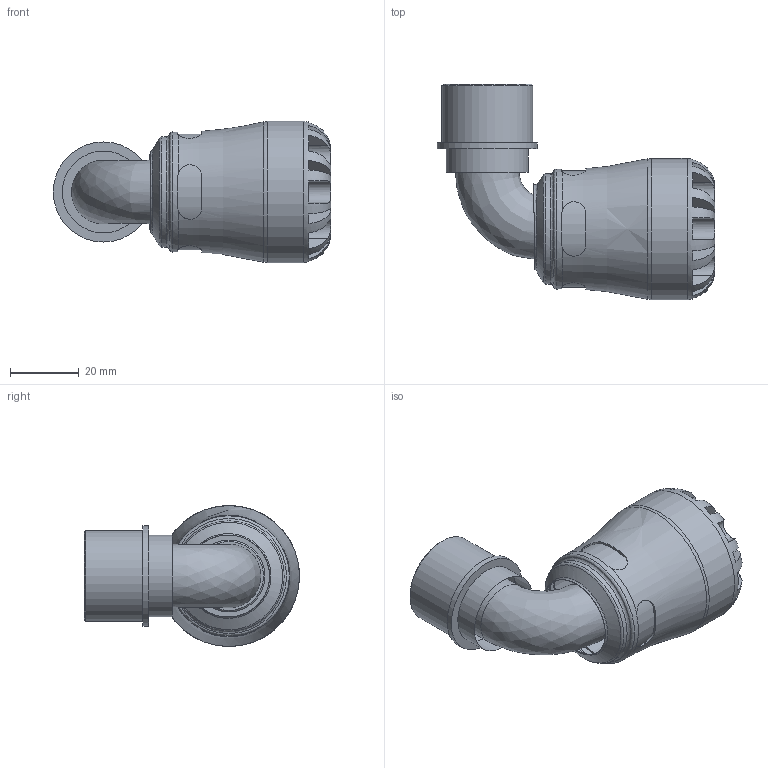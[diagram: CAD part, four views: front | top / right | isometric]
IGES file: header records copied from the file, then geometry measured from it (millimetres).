
Global section: file name: 108500020007_198500020007.ipt; native system: Autodesk Inventor 2015; preprocessor: unknown; author: KIM; date: 20170122.114945; units: millimetre
Bounding box: 80.54 x 62.5 x 41 mm (x, y, z)
Volume: 48957.1 mm3; surface area: 18755.7 mm2
Topology: 1 solids, 1 shells, 110 faces, 289 edges, 182 vertices
Faces by surface type: plane 61, revolution 26, cylinder 18, bspline 4, cone 1
Full cylindrical faces by diameter (mm): 23.797 x1, 26.441 x1, 29.085 x1, 31.98 x1, 34.85 x1, 41 x1
